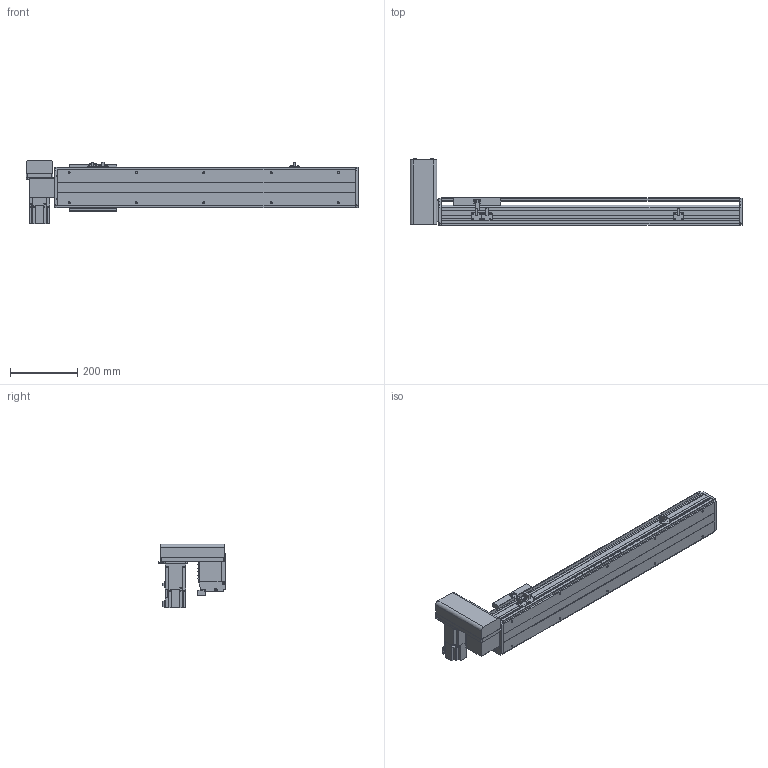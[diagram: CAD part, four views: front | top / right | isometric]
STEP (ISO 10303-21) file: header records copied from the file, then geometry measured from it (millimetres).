
FILE_DESCRIPTION( ( 'STEP AP214' ), '1' );
FILE_NAME( 'x:/temp/worker_27/temp/exporttempdir_6708_227_5NQlv/format_0/PBS120-P40-S600-RU-T40-C1-N(0).stp', '2022-06-06T00:49:02', ( 'License CC BY-ND 4.0' ), ( 'CADENAS' ), ' ', 'PARTsolutions', ' ' );
FILE_SCHEMA( ( 'AUTOMOTIVE_DESIGN { 1 0 10303 214 1 1 1 1 }' ) );
Length unit declared in the file: millimetre
Products named in the file (7): PBS120-P40-S600-RU-T40-C1-N(0); _PBS120-S600()_body; _PBS120T-RU_motors; _T40-p1; _PBS120_sliser; _PBS120_plant; _PBS120_sensor
Assembly tree (8 placements, depth 2):
  PBS120-P40-S600-RU-T40-C1-N(0)
    _PBS120-S600()_body
    _PBS120T-RU_motors
    _T40-p1
    _PBS120_sliser
    _PBS120_plant
    _PBS120_sensor  x3
Bounding box: 986 x 198 x 189.7 mm (x, y, z)
Volume: 4659421.1 mm3; surface area: 876390 mm2
Topology: 8 solids, 8 shells, 810 faces, 2126 edges, 1369 vertices
Faces by surface type: plane 543, cylinder 223, cone 42, torus 2
Full cylindrical faces by diameter (mm): 2.459 x6, 3.242 x4, 4 x2, 4.134 x4, 4.5 x10, 4.917 x14, 5.5 x11, 6 x2, 6.6 x1, 7 x2, 8.5 x4, 9 x4, 12 x1, 14 x1, 30 x2, 40 x1, 50 x2
Entity records: 26820 total; most frequent: DIRECTION 3668, CARTESIAN_POINT 3623, ORIENTED_EDGE 3466, EDGE_CURVE 1733, LINE 1228, VECTOR 1228, AXIS2_PLACEMENT_3D 1220, VERTEX_POINT 1175
